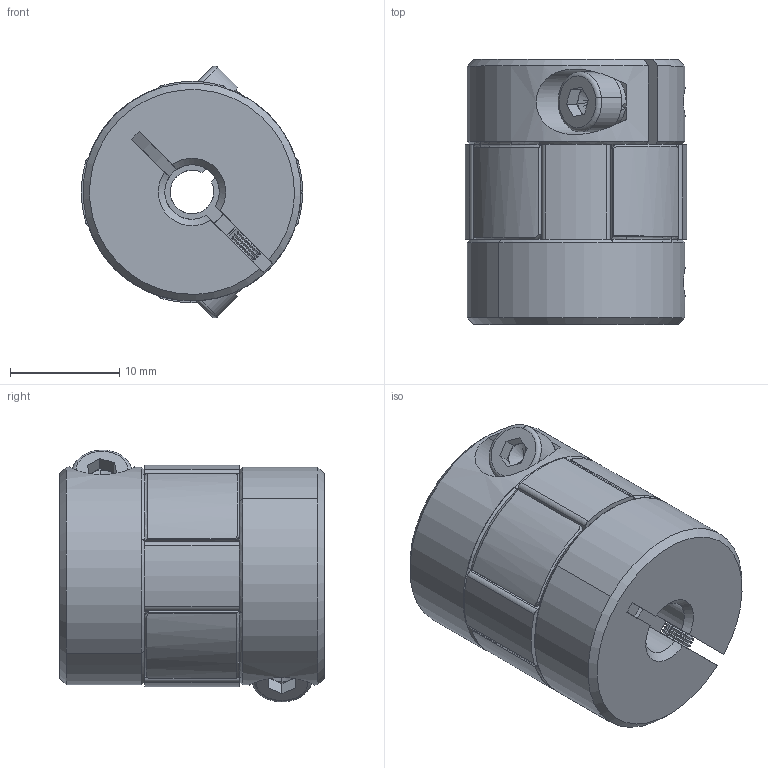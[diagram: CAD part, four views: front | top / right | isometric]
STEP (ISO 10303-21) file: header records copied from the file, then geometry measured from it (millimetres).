
FILE_DESCRIPTION (( 'STEP AP203' ), '1' );
FILE_NAME ('LF-B-D20L25-4-5.STEP', '2021-10-20T01:02:43', ( '' ), ( '' ), 'SwSTEP 2.0', 'SolidWorks 2018', '' );
FILE_SCHEMA (( 'CONFIG_CONTROL_DESIGN' ));
Length unit declared in the file: millimetre
Products named in the file (1): LF-B-D20L25-4-5
Bounding box: 20.31 x 24.3 x 23.09 mm (x, y, z)
Volume: 6766.4 mm3; surface area: 3583.6 mm2
Topology: 1 solids, 1 shells, 431 faces, 1076 edges, 637 vertices
Faces by surface type: cylinder 167, cone 158, plane 94, torus 12
Entity records: 13178 total; most frequent: CARTESIAN_POINT 2731, DIRECTION 2331, ORIENTED_EDGE 2144, EDGE_CURVE 1072, AXIS2_PLACEMENT_3D 959, VERTEX_POINT 637, CIRCLE 527, EDGE_LOOP 447
